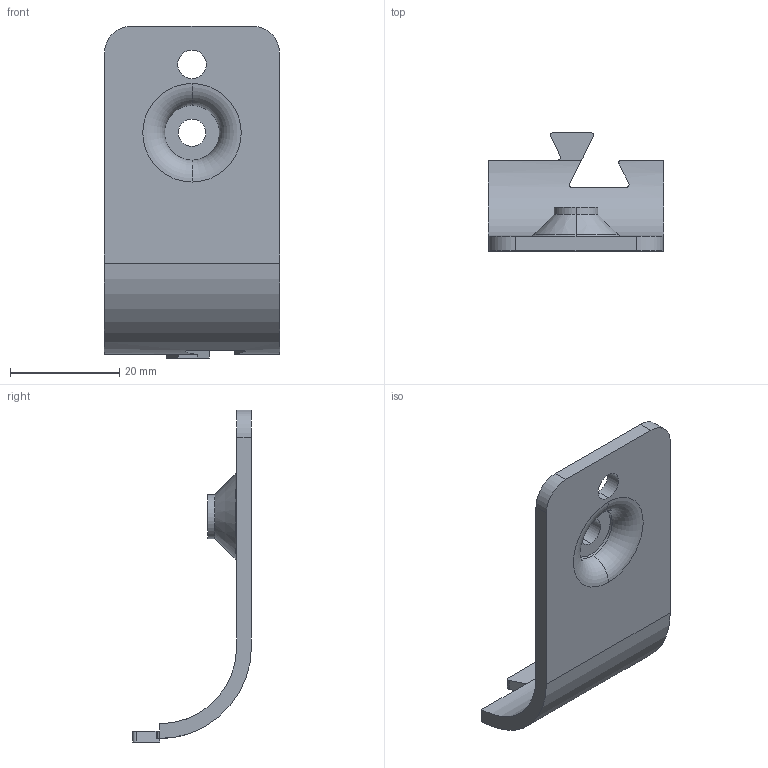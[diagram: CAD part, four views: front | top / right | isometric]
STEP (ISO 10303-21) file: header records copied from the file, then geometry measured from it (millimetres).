
FILE_DESCRIPTION (( 'STEP AP214' ), '1' );
FILE_NAME ('015.100.015A.STEP', '2024-09-26T12:39:33', ( '' ), ( '' ), 'SwSTEP 2.0', 'SolidWorks 2024', '' );
FILE_SCHEMA (( 'AUTOMOTIVE_DESIGN' ));
Length unit declared in the file: millimetre
Products named in the file (1): 015.100.015A
Bounding box: 32 x 21.7 x 60.65 mm (x, y, z)
Volume: 5660.3 mm3; surface area: 5065.8 mm2
Topology: 1 solids, 1 shells, 43 faces, 111 edges, 72 vertices
Faces by surface type: cylinder 20, plane 17, torus 4, cone 2
Entity records: 1376 total; most frequent: CARTESIAN_POINT 290, DIRECTION 224, ORIENTED_EDGE 222, EDGE_CURVE 111, AXIS2_PLACEMENT_3D 84, VERTEX_POINT 72, LINE 56, VECTOR 56
